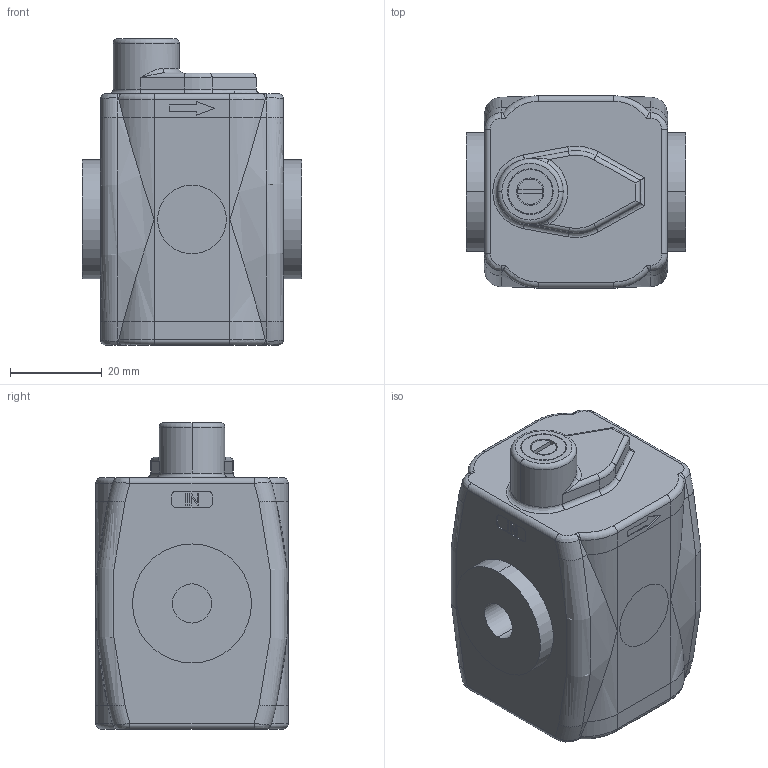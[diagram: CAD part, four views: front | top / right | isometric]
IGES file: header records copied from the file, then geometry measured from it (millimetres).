
Global section: file name: No Iges File Name specified; native system: Autodesk Inventor 2010; preprocessor: AutoDesk Inventor Iges Exporter R2010; author: valotma1; date: 20100823.141751; units: millimetre
Bounding box: 48 x 42 x 67 mm (x, y, z)
Volume: 95634.8 mm3; surface area: 13789.2 mm2
Topology: 1 solids, 1 shells, 223 faces, 532 edges, 330 vertices
Faces by surface type: plane 75, bspline 64, cylinder 45, torus 24, revolution 15
